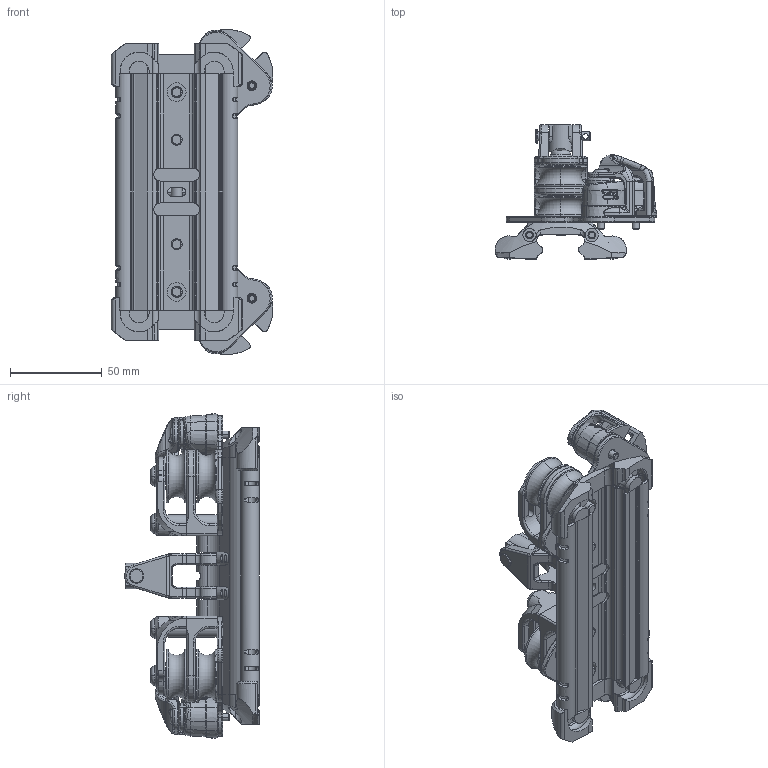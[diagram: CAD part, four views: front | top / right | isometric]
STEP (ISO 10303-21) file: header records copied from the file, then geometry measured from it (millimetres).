
FILE_DESCRIPTION((''),'2;1');
FILE_NAME('29431814_ASM','2005-05-31T',('NBelton'),(''),'PRO/ENGINEER BY PARAMETRIC TECHNOLOGY CORPORATION, 2004320','PRO/ENGINEER BY PARAMETRIC TECHNOLOGY CORPORATION, 2004320','');
FILE_SCHEMA(('CONFIG_CONTROL_DESIGN'));
Length unit declared in the file: millimetre
Products named in the file (27): 25002913; 25003325; 25003255; 25003252; 25003492; 28003228_ASM; 25000017; 25003322; 28003240_ASM; 25002957; 25002971; 25003500; 25003501; 25003502; 25003556; 28003502_ASM; 25000027; B4211; 28003877; 25003676_AF0; 25003679; 25003680; 25003678; 29104400_ASM; B4676-A4; 25003685; 29431814_ASM
Assembly tree (44 placements, depth 3):
  29431814_ASM
    28003228_ASM
      25002913
      25003325
      25003255  x2
      25003252  x2
      25003492  x2
    28003240_ASM
      25000017
      25003322
    28003502_ASM  x2
      25002957
      25002971
      25003500
      25003501
      25003502
      25003556
    25000027
    B4211  x4
    28003877  x2
    29104400_ASM  x2
      25003676_AF0
      25003679
      25003680
      25003678
    B4676-A4  x4
    25003685  x2
Bounding box: 88.44 x 73.4 x 177.41 mm (x, y, z)
Volume: 204488.2 mm3; surface area: 146303.5 mm2
Topology: 53 solids, 53 shells, 3458 faces, 8580 edges, 5284 vertices
Faces by surface type: bspline 962, cylinder 895, plane 819, torus 382, cone 358, sphere 32, revolution 10
Entity records: 84195 total; most frequent: CARTESIAN_POINT 44016, ORIENTED_EDGE 8864, DIRECTION 7655, EDGE_CURVE 4432, AXIS2_PLACEMENT_3D 3118, VERTEX_POINT 2740, EDGE_LOOP 1892, FACE_OUTER_BOUND 1762
